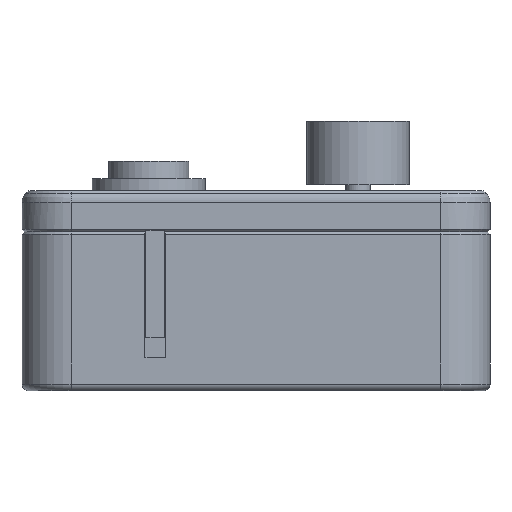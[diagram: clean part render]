
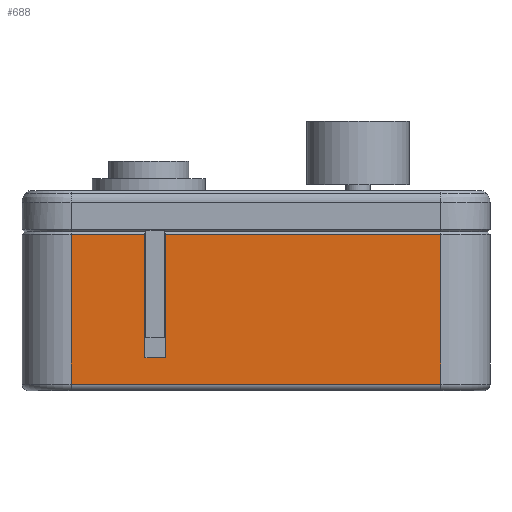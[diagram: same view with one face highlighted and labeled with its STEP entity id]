
A CAD part, front view. The second image highlights one B-rep face of the part: STEP entity #688.
In plain terms, the highlighted planar face has unit normal (0, -1, 0).
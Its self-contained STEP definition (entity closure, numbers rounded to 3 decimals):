
#158 = CYLINDRICAL_SURFACE('',#159,12.);
#159 = AXIS2_PLACEMENT_3D('',#160,#161,#162);
#160 = CARTESIAN_POINT('',(-9.94,-13.4,0.));
#161 = DIRECTION('',(0.,0.,1.));
#162 = DIRECTION('',(-1.,-0.,0.));
#257 = VERTEX_POINT('',#258);
#258 = CARTESIAN_POINT('',(-9.94,-25.4,1.6));
#285 = EDGE_CURVE('',#257,#286,#288,.T.);
#286 = VERTEX_POINT('',#287);
#287 = CARTESIAN_POINT('',(-9.94,-25.4,38.2));
#288 = SURFACE_CURVE('',#289,(#293,#300),.PCURVE_S1.);
#289 = LINE('',#290,#291);
#290 = CARTESIAN_POINT('',(-9.94,-25.4,0.));
#291 = VECTOR('',#292,1.);
#292 = DIRECTION('',(0.,0.,1.));
#293 = PCURVE('',#158,#294);
#294 = DEFINITIONAL_REPRESENTATION('',(#295),#299);
#295 = LINE('',#296,#297);
#296 = CARTESIAN_POINT('',(1.571,0.));
#297 = VECTOR('',#298,1.);
#298 = DIRECTION('',(0.,1.));
#299 = ( GEOMETRIC_REPRESENTATION_CONTEXT(2) 
PARAMETRIC_REPRESENTATION_CONTEXT() REPRESENTATION_CONTEXT('2D SPACE',''
  ) );
#300 = PCURVE('',#301,#306);
#301 = PLANE('',#302);
#302 = AXIS2_PLACEMENT_3D('',#303,#304,#305);
#303 = CARTESIAN_POINT('',(-21.94,-25.4,0.));
#304 = DIRECTION('',(0.,1.,0.));
#305 = DIRECTION('',(0.,0.,1.));
#306 = DEFINITIONAL_REPRESENTATION('',(#307),#311);
#307 = LINE('',#308,#309);
#308 = CARTESIAN_POINT('',(0.,12.));
#309 = VECTOR('',#310,1.);
#310 = DIRECTION('',(1.,0.));
#311 = ( GEOMETRIC_REPRESENTATION_CONTEXT(2) 
PARAMETRIC_REPRESENTATION_CONTEXT() REPRESENTATION_CONTEXT('2D SPACE',''
  ) );
#593 = CYLINDRICAL_SURFACE('',#594,1.6);
#594 = AXIS2_PLACEMENT_3D('',#595,#596,#597);
#595 = CARTESIAN_POINT('',(80.4,-23.8,1.6));
#596 = DIRECTION('',(-1.,-0.,-0.));
#597 = DIRECTION('',(0.,-1.,0.));
#650 = PLANE('',#651);
#651 = AXIS2_PLACEMENT_3D('',#652,#653,#654);
#652 = CARTESIAN_POINT('',(80.4,-25.1,38.5));
#653 = DIRECTION('',(0.,0.707,-0.707)
  );
#654 = DIRECTION('',(-1.,0.,0.));
#688 = ADVANCED_FACE('',(#689),#301,.F.);
#689 = FACE_BOUND('',#690,.F.);
#690 = EDGE_LOOP('',(#691,#714,#715,#738,#764,#790,#816,#844));
#691 = ORIENTED_EDGE('',*,*,#692,.T.);
#692 = EDGE_CURVE('',#693,#257,#695,.T.);
#693 = VERTEX_POINT('',#694);
#694 = CARTESIAN_POINT('',(80.4,-25.4,1.6));
#695 = SURFACE_CURVE('',#696,(#700,#707),.PCURVE_S1.);
#696 = LINE('',#697,#698);
#697 = CARTESIAN_POINT('',(80.4,-25.4,1.6));
#698 = VECTOR('',#699,1.);
#699 = DIRECTION('',(-1.,-0.,-0.));
#700 = PCURVE('',#301,#701);
#701 = DEFINITIONAL_REPRESENTATION('',(#702),#706);
#702 = LINE('',#703,#704);
#703 = CARTESIAN_POINT('',(1.6,102.34));
#704 = VECTOR('',#705,1.);
#705 = DIRECTION('',(-0.,-1.));
#706 = ( GEOMETRIC_REPRESENTATION_CONTEXT(2) 
PARAMETRIC_REPRESENTATION_CONTEXT() REPRESENTATION_CONTEXT('2D SPACE',''
  ) );
#707 = PCURVE('',#593,#708);
#708 = DEFINITIONAL_REPRESENTATION('',(#709),#713);
#709 = LINE('',#710,#711);
#710 = CARTESIAN_POINT('',(-0.,0.));
#711 = VECTOR('',#712,1.);
#712 = DIRECTION('',(-0.,1.));
#713 = ( GEOMETRIC_REPRESENTATION_CONTEXT(2) 
PARAMETRIC_REPRESENTATION_CONTEXT() REPRESENTATION_CONTEXT('2D SPACE',''
  ) );
#714 = ORIENTED_EDGE('',*,*,#285,.T.);
#715 = ORIENTED_EDGE('',*,*,#716,.F.);
#716 = EDGE_CURVE('',#717,#286,#719,.T.);
#717 = VERTEX_POINT('',#718);
#718 = CARTESIAN_POINT('',(8.1,-25.4,38.2));
#719 = SURFACE_CURVE('',#720,(#724,#731),.PCURVE_S1.);
#720 = LINE('',#721,#722);
#721 = CARTESIAN_POINT('',(80.4,-25.4,38.2));
#722 = VECTOR('',#723,1.);
#723 = DIRECTION('',(-1.,-0.,-0.));
#724 = PCURVE('',#301,#725);
#725 = DEFINITIONAL_REPRESENTATION('',(#726),#730);
#726 = LINE('',#727,#728);
#727 = CARTESIAN_POINT('',(38.2,102.34));
#728 = VECTOR('',#729,1.);
#729 = DIRECTION('',(-0.,-1.));
#730 = ( GEOMETRIC_REPRESENTATION_CONTEXT(2) 
PARAMETRIC_REPRESENTATION_CONTEXT() REPRESENTATION_CONTEXT('2D SPACE',''
  ) );
#731 = PCURVE('',#650,#732);
#732 = DEFINITIONAL_REPRESENTATION('',(#733),#737);
#733 = LINE('',#734,#735);
#734 = CARTESIAN_POINT('',(0.,-0.424));
#735 = VECTOR('',#736,1.);
#736 = DIRECTION('',(1.,0.));
#737 = ( GEOMETRIC_REPRESENTATION_CONTEXT(2) 
PARAMETRIC_REPRESENTATION_CONTEXT() REPRESENTATION_CONTEXT('2D SPACE',''
  ) );
#738 = ORIENTED_EDGE('',*,*,#739,.T.);
#739 = EDGE_CURVE('',#717,#740,#742,.T.);
#740 = VERTEX_POINT('',#741);
#741 = CARTESIAN_POINT('',(8.1,-25.4,8.));
#742 = SURFACE_CURVE('',#743,(#747,#753),.PCURVE_S1.);
#743 = LINE('',#744,#745);
#744 = CARTESIAN_POINT('',(8.1,-25.4,4.));
#745 = VECTOR('',#746,1.);
#746 = DIRECTION('',(0.,0.,-1.));
#747 = PCURVE('',#301,#748);
#748 = DEFINITIONAL_REPRESENTATION('',(#749),#752);
#749 = B_SPLINE_CURVE_WITH_KNOTS('',1,(#750,#751),.UNSPECIFIED.,.F.,.F.,
  (2,2),(-34.2,-4.),.PIECEWISE_BEZIER_KNOTS.);
#750 = CARTESIAN_POINT('',(38.2,30.04));
#751 = CARTESIAN_POINT('',(8.,30.04));
#752 = ( GEOMETRIC_REPRESENTATION_CONTEXT(2) 
PARAMETRIC_REPRESENTATION_CONTEXT() REPRESENTATION_CONTEXT('2D SPACE',''
  ) );
#753 = PCURVE('',#754,#759);
#754 = PLANE('',#755);
#755 = AXIS2_PLACEMENT_3D('',#756,#757,#758);
#756 = CARTESIAN_POINT('',(8.1,-26.4,8.));
#757 = DIRECTION('',(1.,0.,0.));
#758 = DIRECTION('',(0.,0.,1.));
#759 = DEFINITIONAL_REPRESENTATION('',(#760),#763);
#760 = B_SPLINE_CURVE_WITH_KNOTS('',1,(#761,#762),.UNSPECIFIED.,.F.,.F.,
  (2,2),(-34.2,-4.),.PIECEWISE_BEZIER_KNOTS.);
#761 = CARTESIAN_POINT('',(30.2,-1.));
#762 = CARTESIAN_POINT('',(0.,-1.));
#763 = ( GEOMETRIC_REPRESENTATION_CONTEXT(2) 
PARAMETRIC_REPRESENTATION_CONTEXT() REPRESENTATION_CONTEXT('2D SPACE',''
  ) );
#764 = ORIENTED_EDGE('',*,*,#765,.T.);
#765 = EDGE_CURVE('',#740,#766,#768,.T.);
#766 = VERTEX_POINT('',#767);
#767 = CARTESIAN_POINT('',(13.1,-25.4,8.));
#768 = SURFACE_CURVE('',#769,(#773,#779),.PCURVE_S1.);
#769 = LINE('',#770,#771);
#770 = CARTESIAN_POINT('',(-6.92,-25.4,8.));
#771 = VECTOR('',#772,1.);
#772 = DIRECTION('',(1.,0.,0.));
#773 = PCURVE('',#301,#774);
#774 = DEFINITIONAL_REPRESENTATION('',(#775),#778);
#775 = B_SPLINE_CURVE_WITH_KNOTS('',1,(#776,#777),.UNSPECIFIED.,.F.,.F.,
  (2,2),(15.02,20.02),.PIECEWISE_BEZIER_KNOTS.);
#776 = CARTESIAN_POINT('',(8.,30.04));
#777 = CARTESIAN_POINT('',(8.,35.04));
#778 = ( GEOMETRIC_REPRESENTATION_CONTEXT(2) 
PARAMETRIC_REPRESENTATION_CONTEXT() REPRESENTATION_CONTEXT('2D SPACE',''
  ) );
#779 = PCURVE('',#780,#785);
#780 = PLANE('',#781);
#781 = AXIS2_PLACEMENT_3D('',#782,#783,#784);
#782 = CARTESIAN_POINT('',(8.1,-26.4,8.));
#783 = DIRECTION('',(0.,0.,1.));
#784 = DIRECTION('',(1.,0.,0.));
#785 = DEFINITIONAL_REPRESENTATION('',(#786),#789);
#786 = B_SPLINE_CURVE_WITH_KNOTS('',1,(#787,#788),.UNSPECIFIED.,.F.,.F.,
  (2,2),(15.02,20.02),.PIECEWISE_BEZIER_KNOTS.);
#787 = CARTESIAN_POINT('',(0.,1.));
#788 = CARTESIAN_POINT('',(5.,1.));
#789 = ( GEOMETRIC_REPRESENTATION_CONTEXT(2) 
PARAMETRIC_REPRESENTATION_CONTEXT() REPRESENTATION_CONTEXT('2D SPACE',''
  ) );
#790 = ORIENTED_EDGE('',*,*,#791,.F.);
#791 = EDGE_CURVE('',#792,#766,#794,.T.);
#792 = VERTEX_POINT('',#793);
#793 = CARTESIAN_POINT('',(13.1,-25.4,38.2));
#794 = SURFACE_CURVE('',#795,(#799,#805),.PCURVE_S1.);
#795 = LINE('',#796,#797);
#796 = CARTESIAN_POINT('',(13.1,-25.4,4.));
#797 = VECTOR('',#798,1.);
#798 = DIRECTION('',(0.,0.,-1.));
#799 = PCURVE('',#301,#800);
#800 = DEFINITIONAL_REPRESENTATION('',(#801),#804);
#801 = B_SPLINE_CURVE_WITH_KNOTS('',1,(#802,#803),.UNSPECIFIED.,.F.,.F.,
  (2,2),(-34.2,-4.),.PIECEWISE_BEZIER_KNOTS.);
#802 = CARTESIAN_POINT('',(38.2,35.04));
#803 = CARTESIAN_POINT('',(8.,35.04));
#804 = ( GEOMETRIC_REPRESENTATION_CONTEXT(2) 
PARAMETRIC_REPRESENTATION_CONTEXT() REPRESENTATION_CONTEXT('2D SPACE',''
  ) );
#805 = PCURVE('',#806,#811);
#806 = PLANE('',#807);
#807 = AXIS2_PLACEMENT_3D('',#808,#809,#810);
#808 = CARTESIAN_POINT('',(13.1,-26.4,8.));
#809 = DIRECTION('',(1.,0.,0.));
#810 = DIRECTION('',(0.,0.,1.));
#811 = DEFINITIONAL_REPRESENTATION('',(#812),#815);
#812 = B_SPLINE_CURVE_WITH_KNOTS('',1,(#813,#814),.UNSPECIFIED.,.F.,.F.,
  (2,2),(-34.2,-4.),.PIECEWISE_BEZIER_KNOTS.);
#813 = CARTESIAN_POINT('',(30.2,-1.));
#814 = CARTESIAN_POINT('',(0.,-1.));
#815 = ( GEOMETRIC_REPRESENTATION_CONTEXT(2) 
PARAMETRIC_REPRESENTATION_CONTEXT() REPRESENTATION_CONTEXT('2D SPACE',''
  ) );
#816 = ORIENTED_EDGE('',*,*,#817,.F.);
#817 = EDGE_CURVE('',#818,#792,#820,.T.);
#818 = VERTEX_POINT('',#819);
#819 = CARTESIAN_POINT('',(80.4,-25.4,38.2));
#820 = SURFACE_CURVE('',#821,(#825,#832),.PCURVE_S1.);
#821 = LINE('',#822,#823);
#822 = CARTESIAN_POINT('',(80.4,-25.4,38.2));
#823 = VECTOR('',#824,1.);
#824 = DIRECTION('',(-1.,-0.,-0.));
#825 = PCURVE('',#301,#826);
#826 = DEFINITIONAL_REPRESENTATION('',(#827),#831);
#827 = LINE('',#828,#829);
#828 = CARTESIAN_POINT('',(38.2,102.34));
#829 = VECTOR('',#830,1.);
#830 = DIRECTION('',(-0.,-1.));
#831 = ( GEOMETRIC_REPRESENTATION_CONTEXT(2) 
PARAMETRIC_REPRESENTATION_CONTEXT() REPRESENTATION_CONTEXT('2D SPACE',''
  ) );
#832 = PCURVE('',#833,#838);
#833 = PLANE('',#834);
#834 = AXIS2_PLACEMENT_3D('',#835,#836,#837);
#835 = CARTESIAN_POINT('',(80.4,-25.1,38.5));
#836 = DIRECTION('',(0.,0.707,-0.707)
  );
#837 = DIRECTION('',(-1.,0.,0.));
#838 = DEFINITIONAL_REPRESENTATION('',(#839),#843);
#839 = LINE('',#840,#841);
#840 = CARTESIAN_POINT('',(0.,-0.424));
#841 = VECTOR('',#842,1.);
#842 = DIRECTION('',(1.,0.));
#843 = ( GEOMETRIC_REPRESENTATION_CONTEXT(2) 
PARAMETRIC_REPRESENTATION_CONTEXT() REPRESENTATION_CONTEXT('2D SPACE',''
  ) );
#844 = ORIENTED_EDGE('',*,*,#845,.F.);
#845 = EDGE_CURVE('',#693,#818,#846,.T.);
#846 = SURFACE_CURVE('',#847,(#851,#858),.PCURVE_S1.);
#847 = LINE('',#848,#849);
#848 = CARTESIAN_POINT('',(80.4,-25.4,0.));
#849 = VECTOR('',#850,1.);
#850 = DIRECTION('',(0.,0.,1.));
#851 = PCURVE('',#301,#852);
#852 = DEFINITIONAL_REPRESENTATION('',(#853),#857);
#853 = LINE('',#854,#855);
#854 = CARTESIAN_POINT('',(0.,102.34));
#855 = VECTOR('',#856,1.);
#856 = DIRECTION('',(1.,0.));
#857 = ( GEOMETRIC_REPRESENTATION_CONTEXT(2) 
PARAMETRIC_REPRESENTATION_CONTEXT() REPRESENTATION_CONTEXT('2D SPACE',''
  ) );
#858 = PCURVE('',#859,#864);
#859 = CYLINDRICAL_SURFACE('',#860,12.);
#860 = AXIS2_PLACEMENT_3D('',#861,#862,#863);
#861 = CARTESIAN_POINT('',(80.4,-13.4,0.));
#862 = DIRECTION('',(0.,0.,1.));
#863 = DIRECTION('',(1.,0.,-0.));
#864 = DEFINITIONAL_REPRESENTATION('',(#865),#869);
#865 = LINE('',#866,#867);
#866 = CARTESIAN_POINT('',(-1.571,0.));
#867 = VECTOR('',#868,1.);
#868 = DIRECTION('',(-0.,1.));
#869 = ( GEOMETRIC_REPRESENTATION_CONTEXT(2) 
PARAMETRIC_REPRESENTATION_CONTEXT() REPRESENTATION_CONTEXT('2D SPACE',''
  ) );
